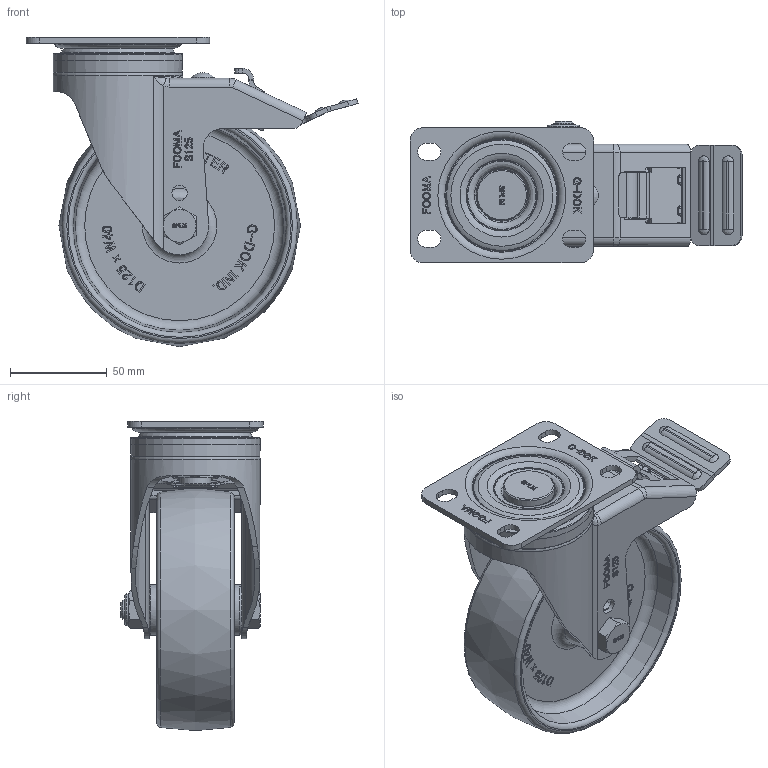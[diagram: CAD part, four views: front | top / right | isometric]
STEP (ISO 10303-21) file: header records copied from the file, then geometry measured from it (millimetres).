
FILE_DESCRIPTION(/* description */ (''),/* implementation_level */ '2;1');
FILE_NAME(/* name */ '\\192.168.10.38\지덕공유\1.기술연구소\2.연구개발 완료\완료_98.스테인레스캐스터 개발건_2023.10.26\제품설계\3D\홈페이지용\NYP\STP\SPLM-125-BSF-NYP.stp',/* time_stamp */ '2025-07-17T17:58:00+09:00',/* author */ ('admin'),/* organization */ ('지덕산업'),/* preprocessor_version */ 'ST-DEVELOPER v18.1',/* originating_system */ 'Autodesk Inventor 2021',/* authorisation */ '');
FILE_SCHEMA (('CONFIG_CONTROL_DESIGN'));
Products named in the file (1): SPLM-125-BSF-NYP
Bounding box: 171.79 x 73.5 x 160 mm (x, y, z)
Volume: 341592.4 mm3; surface area: 116719.4 mm2
Topology: 1 solids, 1 shells, 1724 faces, 4603 edges, 2969 vertices
Faces by surface type: plane 864, bspline 498, cylinder 256, cone 65, torus 40, sphere 1
Full cylindrical faces by diameter (mm): 6 x1, 7 x3, 8 x2, 9 x1, 10 x2, 11 x1, 12 x1, 16 x2, 16.5 x1, 26.6 x1, 54 x1, 67 x1
Entity records: 55548 total; most frequent: CARTESIAN_POINT 15781, ORIENTED_EDGE 9198, DIRECTION 6615, EDGE_CURVE 4599, VERTEX_POINT 2969, LINE 2743, VECTOR 2743, AXIS2_PLACEMENT_3D 1936
